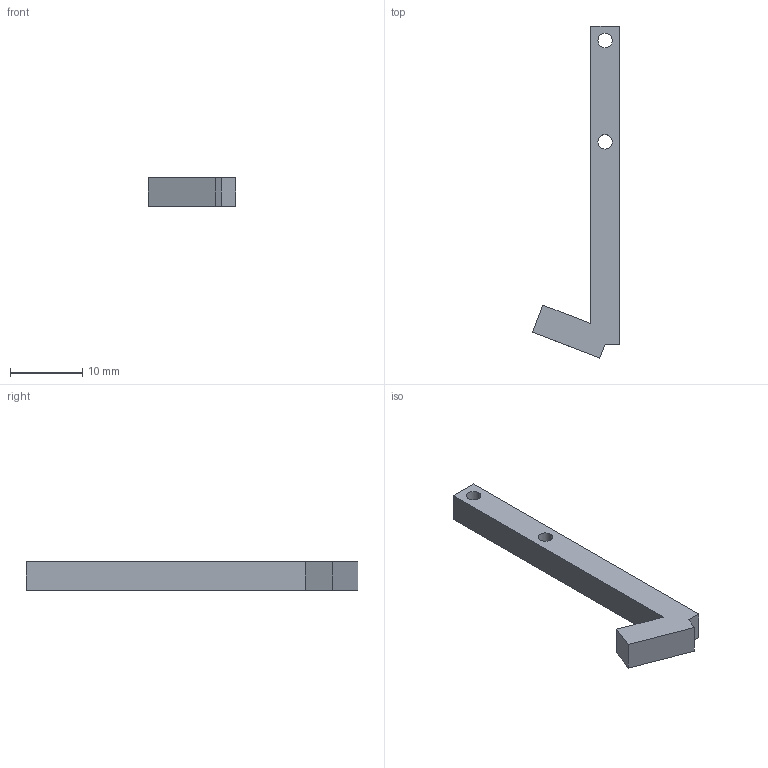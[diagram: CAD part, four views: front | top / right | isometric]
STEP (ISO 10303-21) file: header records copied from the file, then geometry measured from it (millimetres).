
FILE_DESCRIPTION (( 'STEP AP203' ), '1' );
FILE_NAME ('Pieds_Défaut_sldprt.STEP', '2025-03-05T11:20:02', ( '' ), ( '' ), 'SwSTEP 2.0', 'SolidWorks 2023', '' );
FILE_SCHEMA (( 'CONFIG_CONTROL_DESIGN' ));
Length unit declared in the file: millimetre
Products named in the file (1): Pieds_Défaut_sldprt
Bounding box: 12.05 x 45.87 x 4 mm (x, y, z)
Volume: 815.6 mm3; surface area: 914.8 mm2
Topology: 1 solids, 1 shells, 14 faces, 36 edges, 24 vertices
Faces by surface type: plane 10, cylinder 4
Entity records: 513 total; most frequent: CARTESIAN_POINT 75, DIRECTION 74, ORIENTED_EDGE 72, EDGE_CURVE 36, VECTOR 28, LINE 28, VERTEX_POINT 24, AXIS2_PLACEMENT_3D 23
